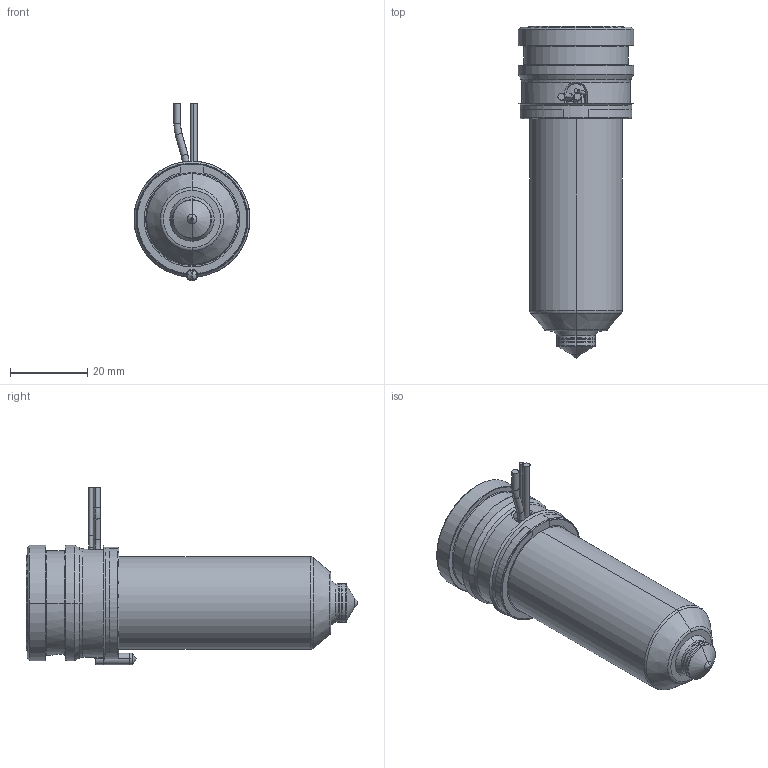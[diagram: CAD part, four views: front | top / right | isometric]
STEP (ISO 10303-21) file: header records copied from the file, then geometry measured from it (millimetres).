
FILE_DESCRIPTION((''),'2;1');
FILE_NAME('MPN-10-29-TS10-066-A','2026-02-05T12:32:40',('UPTIO'),('Thermoplay S.p.A.'),'CREO PARAMETRIC BY PTC INC, 2023494','CREO PARAMETRIC BY PTC INC, 2023494','');
FILE_SCHEMA(('CONFIG_CONTROL_DESIGN','SHAPE_APPEARANCE_LAYERS_GROUPS'));
Length unit declared in the file: millimetre
Products named in the file (1): MPN-10-29-TS10-066-A
Bounding box: 30 x 86 x 46 mm (x, y, z)
Volume: 28041.4 mm3; surface area: 27460.2 mm2
Topology: 2 solids, 3 shells, 552 faces, 1455 edges, 898 vertices
Faces by surface type: cylinder 180, plane 145, bspline 78, torus 68, cone 66, sphere 11, extrusion 4
Entity records: 30303 total; most frequent: CARTESIAN_POINT 13924, ORIENTED_EDGE 2894, DIRECTION 2651, EDGE_CURVE 1447, AXIS2_PLACEMENT_3D 1051, VERTEX_POINT 898, EDGE_LOOP 581, CIRCLE 580
